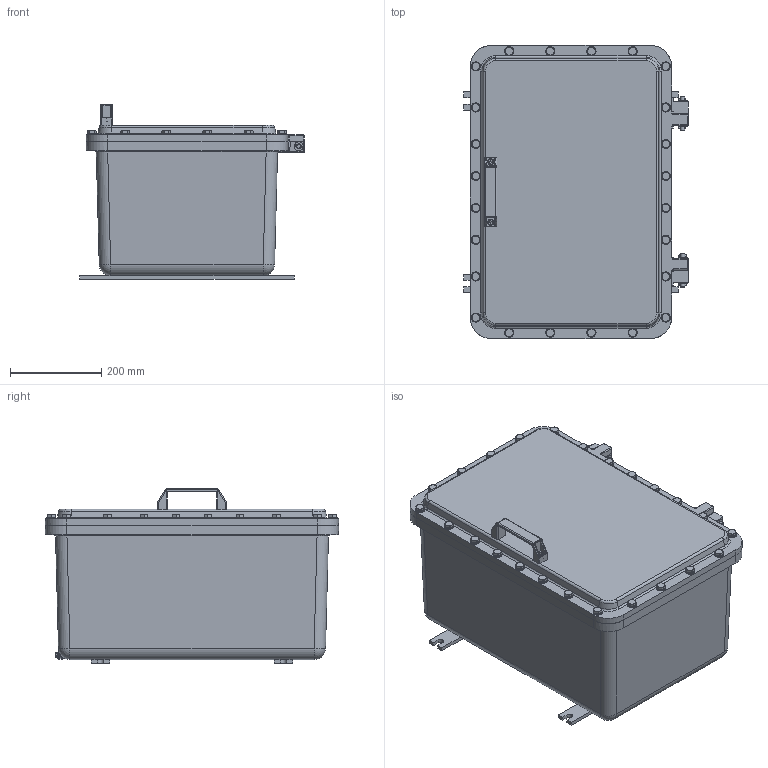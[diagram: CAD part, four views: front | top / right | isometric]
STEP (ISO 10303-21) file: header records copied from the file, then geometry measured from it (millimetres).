
FILE_DESCRIPTION((''),'2;1');
FILE_NAME('\\192.168.5.25\cortem_klient\INVENTOR БАЗА МОДЕЛЕЙ\Актуальная база моделей для отдела продаж\ЩОРВ-Н\ЩОРВ-Н644433.stp','2019-04-26T16:21:56',('V.E.Dolguev'),(''),'Autodesk Inventor 2012','Autodesk Inventor 2012','');
FILE_SCHEMA(('AUTOMOTIVE_DESIGN { 1 0 10303 214 1 1 1 1 }'));
Length unit declared in the file: millimetre
Products named in the file (1): ЩОРВ-Н644433
Bounding box: 492.29 x 641.6 x 382 mm (x, y, z)
Surface area: 2489774.5 mm2 (no closed solid volume)
Topology: 0 solids, 79 shells, 1786 faces, 4122 edges, 2588 vertices
Faces by surface type: plane 728, cylinder 425, bspline 316, cone 255, torus 45, sphere 17
Full cylindrical faces by diameter (mm): 2.8 x4, 4 x8, 4.9 x6, 4.917 x1, 5 x4, 6 x3, 6.4 x1, 6.5 x2, 6.647 x2, 7.9 x3, 8 x2, 8.4 x24, 8.5 x2, 9.188 x24, 10 x26, 10.1 x4, 10.5 x58, 12 x5, 13 x6, 13.5 x2, 15.4 x24, 20 x30, 23.12 x4
Entity records: 63553 total; most frequent: CARTESIAN_POINT 24936, ORIENTED_EDGE 7294, DIRECTION 6905, EDGE_CURVE 3647, AXIS2_PLACEMENT_3D 2691, VERTEX_POINT 2497, EDGE_LOOP 2464, FACE_OUTER_BOUND 1786
